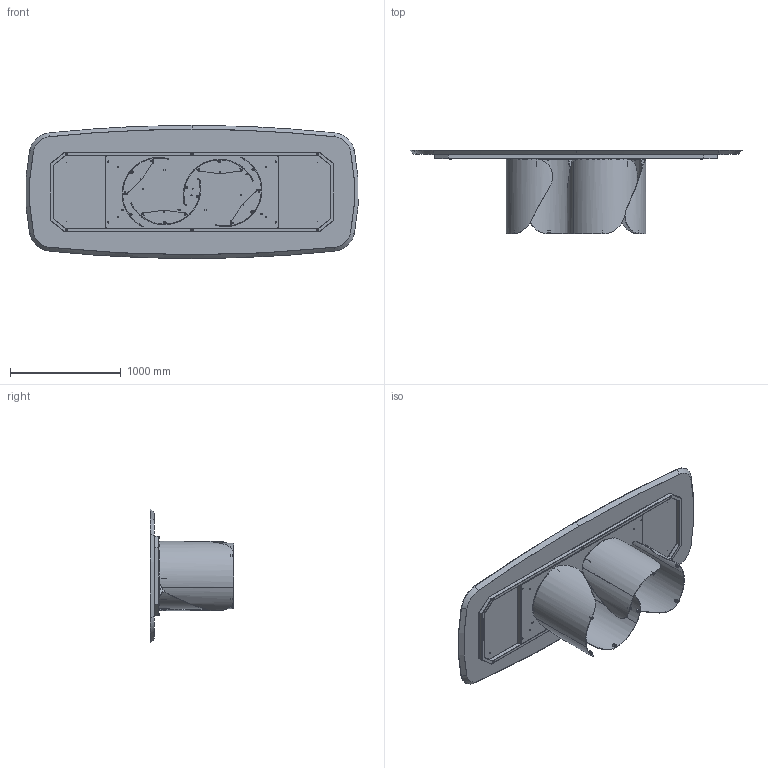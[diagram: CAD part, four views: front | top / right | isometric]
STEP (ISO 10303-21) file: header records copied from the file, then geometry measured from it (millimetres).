
FILE_DESCRIPTION (( 'STEP AP203' ), '1' );
FILE_NAME ('ON44W.STEP', '2024-08-06T13:44:26', ( '' ), ( '' ), 'SwSTEP 2.0', 'SolidWorks 2022', '' );
FILE_SCHEMA (( 'CONFIG_CONTROL_DESIGN' ));
Length unit declared in the file: millimetre
Products named in the file (15): OND000000_02-00-CILINDRO DI FISSAGGIO Ø25X17 M8; OND000000_03-00-LAMIERA CURVATA PRINCIPALE_OND00000X-00-ONDA BASE GREZZA PROTOTIPO; ON44W; TTAV07-04-TELAIO X TAVOLI PLAI ONDA NOA 300; OND000000_01-00-PIASTRA SUPERIORE BASE ONDA; M8xXXmm_M8x20mm; TTAV07_02-01-VASSOIO TELAIO  PLAI ONDA NOA 300; W4XCMXX-00-Piani Sagomati legno_3000 x 1200; M8xXXmm_M8x55mm; TTAV07_01-04-STRUTTURA TAVOLI PLAI ONDA NOA 300; rondella M8_8X24; OND000000-03-ONDA BASE GREZZA; PIEDINO PER ONDA; COLLO TELAIO UNIVERSALE TTAV07 CON FERRAMENTA_MTG TOP LEGNO-MARMO-KING; COLLO BASE ONDA SINGOLA CON FERRAMENTA
Assembly tree (60 placements, depth 4):
  ON44W
    COLLO TELAIO UNIVERSALE TTAV07 CON FERRAMENTA_MTG TOP LEGNO-MARMO-KING
      TTAV07-04-TELAIO X TAVOLI PLAI ONDA NOA 300
        TTAV07_01-04-STRUTTURA TAVOLI PLAI ONDA NOA 300
        TTAV07_02-01-VASSOIO TELAIO  PLAI ONDA NOA 300
      rondella M8_8X24  x6
      M8xXXmm_M8x55mm  x6
    COLLO BASE ONDA SINGOLA CON FERRAMENTA  x4
      OND000000-03-ONDA BASE GREZZA
        OND000000_03-00-LAMIERA CURVATA PRINCIPALE_OND00000X-00-ONDA BASE GREZZA PROTOTIPO
        OND000000_01-00-PIASTRA SUPERIORE BASE ONDA
        OND000000_02-00-CILINDRO DI FISSAGGIO Ø25X17 M8  x2
      PIEDINO PER ONDA
    rondella M8_8X24  x16
    M8xXXmm_M8x20mm  x16
    W4XCMXX-00-Piani Sagomati legno_3000 x 1200
Bounding box: 2991.72 x 754 x 1200 mm (x, y, z)
Volume: 140450194.9 mm3; surface area: 15453357.3 mm2
Topology: 79 solids, 79 shells, 2201 faces, 5054 edges, 3028 vertices
Faces by surface type: plane 780, cylinder 731, torus 305, cone 289, bspline 80, sphere 16
Entity records: 25210 total; most frequent: CARTESIAN_POINT 5504, DIRECTION 3693, ORIENTED_EDGE 3374, EDGE_CURVE 1687, AXIS2_PLACEMENT_3D 1407, VERTEX_POINT 1058, VECTOR 879, LINE 879
